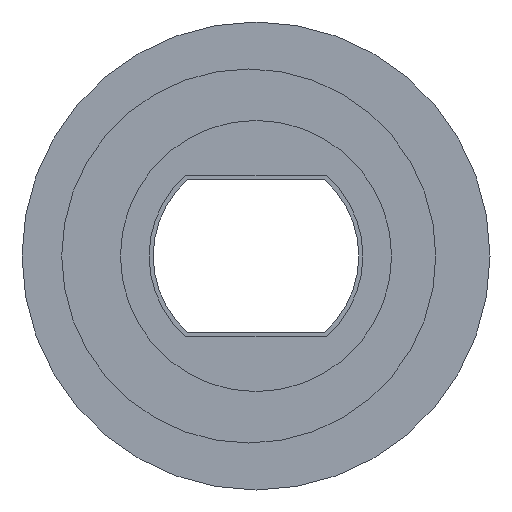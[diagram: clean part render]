
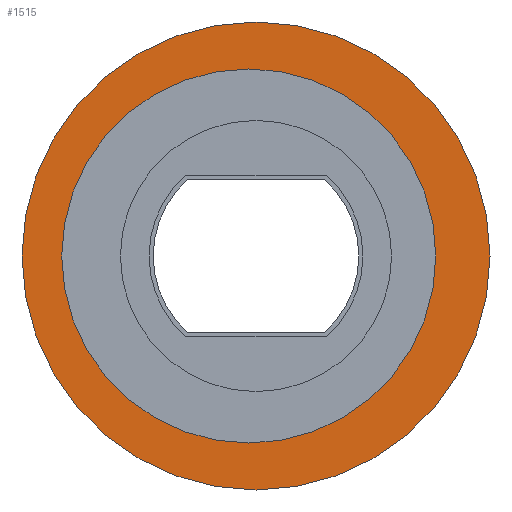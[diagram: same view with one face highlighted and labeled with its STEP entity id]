
A CAD part, front view. The second image highlights one B-rep face of the part: STEP entity #1515.
In plain terms, the highlighted free-form (B-spline) face has degree [1, 1] with [2, 2] control points.
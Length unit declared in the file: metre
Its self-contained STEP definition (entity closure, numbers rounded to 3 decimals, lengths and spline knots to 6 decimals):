
#235=B_SPLINE_SURFACE_WITH_KNOTS('',1,1,((#2288,#2289),(#2290,#2291)),
 .PLANE_SURF.,.F.,.F.,.F.,(2,2),(2,2),(0.045438,0.957268),
(0.041942,0.956121),.PIECEWISE_BEZIER_KNOTS.);
#425=ORIENTED_EDGE('',*,*,#810,.T.);
#426=ORIENTED_EDGE('',*,*,#884,.T.);
#427=ORIENTED_EDGE('',*,*,#816,.F.);
#428=ORIENTED_EDGE('',*,*,#885,.F.);
#810=EDGE_CURVE('',#1043,#1042,#1187,.T.);
#816=EDGE_CURVE('',#1048,#1049,#1190,.T.);
#884=EDGE_CURVE('',#1042,#1043,#1219,.T.);
#885=EDGE_CURVE('',#1049,#1048,#1220,.T.);
#1042=VERTEX_POINT('',#1937);
#1043=VERTEX_POINT('',#1939);
#1048=VERTEX_POINT('',#1969);
#1049=VERTEX_POINT('',#1970);
#1187=CIRCLE('',#1623,0.081941);
#1190=CIRCLE('',#1626,0.102512);
#1219=CIRCLE('',#1655,0.081941);
#1220=CIRCLE('',#1656,0.102512);
#1265=EDGE_LOOP('',(#425,#426));
#1266=EDGE_LOOP('',(#427,#428));
#1369=FACE_BOUND('',#1265,.T.);
#1370=FACE_BOUND('',#1266,.T.);
#1515=ADVANCED_FACE('',(#1369,#1370),#235,.T.);
#1623=AXIS2_PLACEMENT_3D('',#1938,#1689,#1690);
#1626=AXIS2_PLACEMENT_3D('',#1968,#1695,#1696);
#1655=AXIS2_PLACEMENT_3D('',#2292,#1767,#1768);
#1656=AXIS2_PLACEMENT_3D('',#2293,#1769,#1770);
#1689=DIRECTION('',(0.,1.,0.));
#1690=DIRECTION('',(1.,0.,0.));
#1695=DIRECTION('',(0.,1.,0.));
#1696=DIRECTION('',(1.,0.,0.));
#1767=DIRECTION('',(0.,1.,0.));
#1768=DIRECTION('',(1.,0.,0.));
#1769=DIRECTION('',(0.,1.,0.));
#1770=DIRECTION('',(1.,0.,0.));
#1937=CARTESIAN_POINT('',(-0.085116,0.016069,0.));
#1938=CARTESIAN_POINT('',(-0.003175,0.016069,0.));
#1939=CARTESIAN_POINT('',(0.078766,0.016069,0.));
#1968=CARTESIAN_POINT('',(0.,0.016069,0.));
#1969=CARTESIAN_POINT('',(-0.102512,0.016069,0.));
#1970=CARTESIAN_POINT('',(0.102512,0.016069,0.));
#2288=CARTESIAN_POINT('',(0.103746,0.016069,0.104544));
#2289=CARTESIAN_POINT('',(0.103746,0.016069,-0.104102));
#2290=CARTESIAN_POINT('',(-0.104364,0.016069,0.104544));
#2291=CARTESIAN_POINT('',(-0.104364,0.016069,-0.104102));
#2292=CARTESIAN_POINT('',(-0.003175,0.016069,0.));
#2293=CARTESIAN_POINT('',(0.,0.016069,0.));
